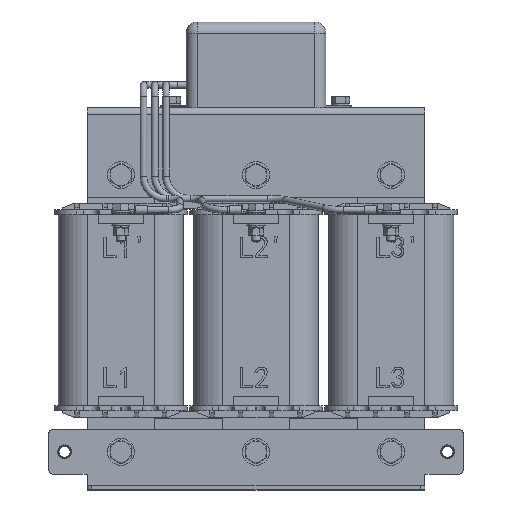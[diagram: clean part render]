
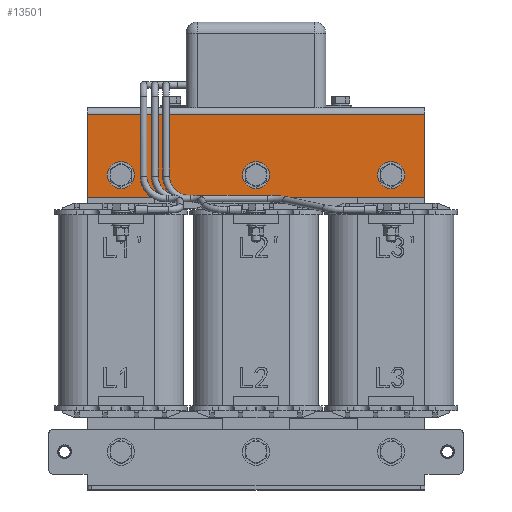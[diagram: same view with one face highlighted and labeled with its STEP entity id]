
A CAD part, front view. The second image highlights one B-rep face of the part: STEP entity #13501.
In plain terms, the highlighted planar face has unit normal (0, -1, 0).
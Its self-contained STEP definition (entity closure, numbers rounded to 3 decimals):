
#13501=ADVANCED_FACE('',(#26935,#26937,#26939,#26941),#26943,.F.);
#26935=FACE_BOUND('',#26936,.T.);
#26936=EDGE_LOOP('',(#36458,#36459,#36460,#36461));
#26937=FACE_BOUND('',#26938,.T.);
#26938=EDGE_LOOP('',(#36462));
#26939=FACE_BOUND('',#26940,.T.);
#26940=EDGE_LOOP('',(#36463));
#26941=FACE_BOUND('',#26942,.T.);
#26942=EDGE_LOOP('',(#36464));
#26943=PLANE('',#26944);
#26944=AXIS2_PLACEMENT_3D('',#26945,#26946,#26947);
#26945=CARTESIAN_POINT('',(75.,-57.,154.8));
#26946=DIRECTION('',(0.,1.,0.));
#26947=DIRECTION('',(0.,0.,-1.));
#36458=ORIENTED_EDGE('',*,*,#40422,.F.);
#36459=ORIENTED_EDGE('',*,*,#40408,.F.);
#36460=ORIENTED_EDGE('',*,*,#40423,.T.);
#36461=ORIENTED_EDGE('',*,*,#40420,.F.);
#36462=ORIENTED_EDGE('',*,*,#40383,.F.);
#36463=ORIENTED_EDGE('',*,*,#40385,.F.);
#36464=ORIENTED_EDGE('',*,*,#40387,.F.);
#40383=EDGE_CURVE('',#46291,#46291,#46292,.T.);
#40385=EDGE_CURVE('',#46295,#46295,#46296,.T.);
#40387=EDGE_CURVE('',#46299,#46299,#46300,.T.);
#40408=EDGE_CURVE('',#46341,#46342,#46343,.T.);
#40420=EDGE_CURVE('',#46358,#46360,#46361,.T.);
#40422=EDGE_CURVE('',#46342,#46358,#46363,.T.);
#40423=EDGE_CURVE('',#46341,#46360,#46364,.T.);
#46291=VERTEX_POINT('',#67367);
#46292=CIRCLE('',#67368,4.5);
#46295=VERTEX_POINT('',#67377);
#46296=CIRCLE('',#67378,4.5);
#46299=VERTEX_POINT('',#67387);
#46300=CIRCLE('',#67388,4.5);
#46341=VERTEX_POINT('',#67480);
#46342=VERTEX_POINT('',#67481);
#46343=LINE('',#67482,#67483);
#46358=VERTEX_POINT('',#67523);
#46360=VERTEX_POINT('',#67527);
#46361=LINE('',#67528,#67529);
#46363=LINE('',#67534,#67535);
#46364=LINE('',#67537,#67538);
#67367=CARTESIAN_POINT('',(-60.,-57.,135.3));
#67368=AXIS2_PLACEMENT_3D('',#67369,#67370,#67371);
#67369=CARTESIAN_POINT('',(-60.,-57.,139.8));
#67370=DIRECTION('',(0.,-1.,0.));
#67371=DIRECTION('',(0.,0.,1.));
#67377=CARTESIAN_POINT('',(0.,-57.,135.3));
#67378=AXIS2_PLACEMENT_3D('',#67379,#67380,#67381);
#67379=CARTESIAN_POINT('',(0.,-57.,139.8));
#67380=DIRECTION('',(0.,-1.,0.));
#67381=DIRECTION('',(0.,0.,1.));
#67387=CARTESIAN_POINT('',(60.,-57.,135.3));
#67388=AXIS2_PLACEMENT_3D('',#67389,#67390,#67391);
#67389=CARTESIAN_POINT('',(60.,-57.,139.8));
#67390=DIRECTION('',(0.,-1.,0.));
#67391=DIRECTION('',(0.,0.,1.));
#67480=CARTESIAN_POINT('',(-75.,-57.,166.8));
#67481=CARTESIAN_POINT('',(75.,-57.,166.8));
#67482=CARTESIAN_POINT('',(-75.,-57.,166.8));
#67483=VECTOR('',#67484,1.);
#67484=DIRECTION('',(1.,0.,0.));
#67523=CARTESIAN_POINT('',(75.,-57.,129.8));
#67527=CARTESIAN_POINT('',(-75.,-57.,129.8));
#67528=CARTESIAN_POINT('',(75.,-57.,129.8));
#67529=VECTOR('',#67530,1.);
#67530=DIRECTION('',(-1.,0.,0.));
#67534=CARTESIAN_POINT('',(75.,-57.,166.8));
#67535=VECTOR('',#67536,1.);
#67536=DIRECTION('',(0.,0.,-1.));
#67537=CARTESIAN_POINT('',(-75.,-57.,166.8));
#67538=VECTOR('',#67539,1.);
#67539=DIRECTION('',(0.,0.,-1.));
